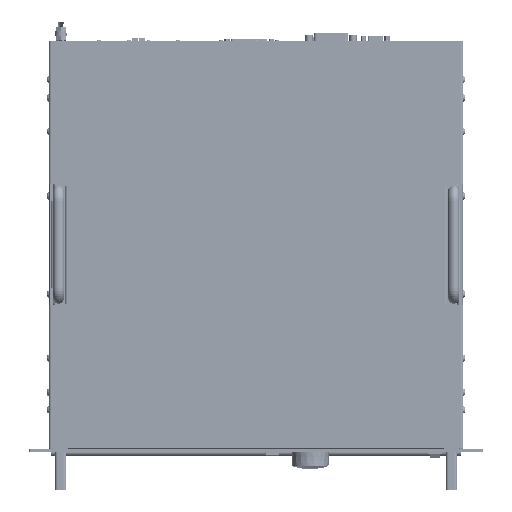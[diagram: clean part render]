
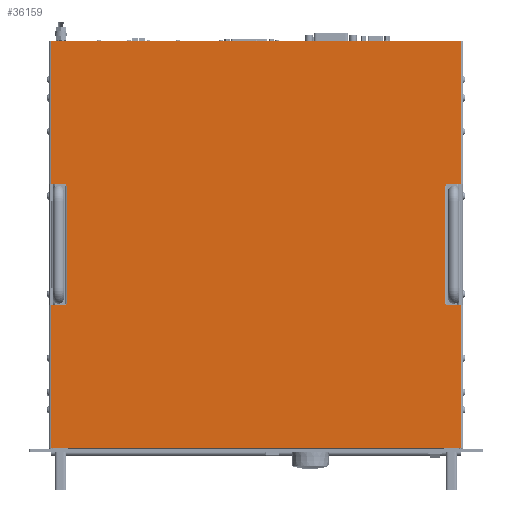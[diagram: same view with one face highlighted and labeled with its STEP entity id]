
A CAD part, top view. The second image highlights one B-rep face of the part: STEP entity #36159.
In plain terms, the highlighted planar face has unit normal (0, 0, 1).
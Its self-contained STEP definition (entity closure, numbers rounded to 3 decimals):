
#36159=ADVANCED_FACE('',(#79240),#79241,.F.);
#79240=FACE_OUTER_BOUND('',#158918,.T.);
#79241=PLANE('',#158919);
#158918=EDGE_LOOP('',(#263741,#263742,#263743,#263744,#263745,#263746,#263747,#263748,#263749,#263750,#263751,#263752,#263753,#263754,#263755,#263756,#263757,#263758,#263759,#263760));
#158919=AXIS2_PLACEMENT_3D('',#263761,#263762,#263763);
#263741=ORIENTED_EDGE('',*,*,#353192,.T.);
#263742=ORIENTED_EDGE('',*,*,#353212,.F.);
#263743=ORIENTED_EDGE('',*,*,#353213,.F.);
#263744=ORIENTED_EDGE('',*,*,#352856,.F.);
#263745=ORIENTED_EDGE('',*,*,#353178,.F.);
#263746=ORIENTED_EDGE('',*,*,#352841,.F.);
#263747=ORIENTED_EDGE('',*,*,#353167,.F.);
#263748=ORIENTED_EDGE('',*,*,#353214,.F.);
#263749=ORIENTED_EDGE('',*,*,#353210,.T.);
#263750=ORIENTED_EDGE('',*,*,#353205,.F.);
#263751=ORIENTED_EDGE('',*,*,#353202,.T.);
#263752=ORIENTED_EDGE('',*,*,#353215,.F.);
#263753=ORIENTED_EDGE('',*,*,#353143,.F.);
#263754=ORIENTED_EDGE('',*,*,#352831,.F.);
#263755=ORIENTED_EDGE('',*,*,#353132,.F.);
#263756=ORIENTED_EDGE('',*,*,#352851,.F.);
#263757=ORIENTED_EDGE('',*,*,#353216,.F.);
#263758=ORIENTED_EDGE('',*,*,#353217,.F.);
#263759=ORIENTED_EDGE('',*,*,#353189,.T.);
#263760=ORIENTED_EDGE('',*,*,#353197,.T.);
#263761=CARTESIAN_POINT('',(243.171,260.375,398.172));
#263762=DIRECTION('',(0.,0.,-1.0));
#263763=DIRECTION('',(1.0,0.,0.));
#352831=EDGE_CURVE('',#418609,#418611,#418612,.T.);
#352841=EDGE_CURVE('',#418627,#418629,#418630,.T.);
#352851=EDGE_CURVE('',#418645,#418647,#418648,.T.);
#352856=EDGE_CURVE('',#418654,#418656,#418657,.T.);
#353132=EDGE_CURVE('',#418647,#418609,#419087,.T.);
#353143=EDGE_CURVE('',#418611,#419102,#419103,.T.);
#353167=EDGE_CURVE('',#419135,#418627,#419137,.T.);
#353178=EDGE_CURVE('',#418629,#418654,#419152,.T.);
#353189=EDGE_CURVE('',#419163,#419166,#419168,.T.);
#353192=EDGE_CURVE('',#419173,#419170,#419174,.T.);
#353197=EDGE_CURVE('',#419166,#419173,#419179,.T.);
#353202=EDGE_CURVE('',#419185,#419183,#419186,.T.);
#353205=EDGE_CURVE('',#419185,#419189,#419190,.T.);
#353210=EDGE_CURVE('',#419195,#419189,#419197,.T.);
#353212=EDGE_CURVE('',#419199,#419170,#419200,.T.);
#353213=EDGE_CURVE('',#418656,#419199,#419201,.T.);
#353214=EDGE_CURVE('',#419195,#419135,#419202,.T.);
#353215=EDGE_CURVE('',#419102,#419183,#419203,.T.);
#353216=EDGE_CURVE('',#419204,#418645,#419205,.T.);
#353217=EDGE_CURVE('',#419163,#419204,#419206,.T.);
#418609=VERTEX_POINT('',#515691);
#418611=VERTEX_POINT('',#515693);
#418612=LINE('',#515694,#515695);
#418627=VERTEX_POINT('',#515713);
#418629=VERTEX_POINT('',#515715);
#418630=LINE('',#515716,#515717);
#418645=VERTEX_POINT('',#515735);
#418647=VERTEX_POINT('',#515737);
#418648=LINE('',#515738,#515739);
#418654=VERTEX_POINT('',#515746);
#418656=VERTEX_POINT('',#515748);
#418657=LINE('',#515749,#515750);
#419087=LINE('',#516301,#516302);
#419102=VERTEX_POINT('',#516322);
#419103=LINE('',#516323,#516324);
#419135=VERTEX_POINT('',#516370);
#419137=LINE('',#516373,#516374);
#419152=LINE('',#516394,#516395);
#419163=VERTEX_POINT('',#516410);
#419166=VERTEX_POINT('',#516414);
#419168=LINE('',#516416,#516417);
#419170=VERTEX_POINT('',#516419);
#419173=VERTEX_POINT('',#516423);
#419174=LINE('',#516424,#516425);
#419179=LINE('',#516430,#516431);
#419183=VERTEX_POINT('',#516436);
#419185=VERTEX_POINT('',#516439);
#419186=LINE('',#516440,#516441);
#419189=VERTEX_POINT('',#516444);
#419190=LINE('',#516445,#516446);
#419195=VERTEX_POINT('',#516451);
#419197=LINE('',#516454,#516455);
#419199=VERTEX_POINT('',#516457);
#419200=LINE('',#516458,#516459);
#419201=LINE('',#516460,#516461);
#419202=LINE('',#516462,#516463);
#419203=LINE('',#516464,#516465);
#419204=VERTEX_POINT('',#516466);
#419205=LINE('',#516467,#516468);
#419206=LINE('',#516469,#516470);
#515691=CARTESIAN_POINT('',(25.493,43.75,398.172));
#515693=CARTESIAN_POINT('',(25.493,195.75,398.172));
#515694=CARTESIAN_POINT('',(25.493,190.063,398.172));
#515695=VECTOR('',#592863,1.0);
#515713=CARTESIAN_POINT('',(25.493,325.,398.172));
#515715=CARTESIAN_POINT('',(25.493,477.,398.172));
#515716=CARTESIAN_POINT('',(25.493,330.688,398.172));
#515717=VECTOR('',#592879,1.0);
#515735=CARTESIAN_POINT('',(460.848,195.75,398.172));
#515737=CARTESIAN_POINT('',(460.848,43.75,398.172));
#515738=CARTESIAN_POINT('',(460.848,190.063,398.172));
#515739=VECTOR('',#592895,1.0);
#515746=CARTESIAN_POINT('',(460.848,477.,398.172));
#515748=CARTESIAN_POINT('',(460.848,325.,398.172));
#515749=CARTESIAN_POINT('',(460.848,330.688,398.172));
#515750=VECTOR('',#592903,1.0);
#516301=CARTESIAN_POINT('',(463.598,43.75,398.172));
#516302=VECTOR('',#593289,1.0);
#516322=CARTESIAN_POINT('',(40.743,195.75,398.172));
#516323=CARTESIAN_POINT('',(22.743,195.75,398.172));
#516324=VECTOR('',#593307,1.0);
#516370=CARTESIAN_POINT('',(40.743,325.,398.172));
#516373=CARTESIAN_POINT('',(40.743,325.,398.172));
#516374=VECTOR('',#593335,1.0);
#516394=CARTESIAN_POINT('',(22.743,477.,398.172));
#516395=VECTOR('',#593353,1.0);
#516410=CARTESIAN_POINT('',(445.598,197.75,398.172));
#516414=CARTESIAN_POINT('',(443.848,197.75,398.172));
#516416=CARTESIAN_POINT('',(344.464,197.75,398.172));
#516417=VECTOR('',#593365,1.0);
#516419=CARTESIAN_POINT('',(445.598,323.,398.172));
#516423=CARTESIAN_POINT('',(443.848,323.,398.172));
#516424=CARTESIAN_POINT('',(344.464,323.,398.172));
#516425=VECTOR('',#593367,1.0);
#516430=CARTESIAN_POINT('',(443.848,260.375,398.172));
#516431=VECTOR('',#593377,1.0);
#516436=CARTESIAN_POINT('',(40.743,197.75,398.172));
#516439=CARTESIAN_POINT('',(42.493,197.75,398.172));
#516440=CARTESIAN_POINT('',(141.877,197.75,398.172));
#516441=VECTOR('',#593380,1.0);
#516444=CARTESIAN_POINT('',(42.493,323.,398.172));
#516445=CARTESIAN_POINT('',(42.493,260.375,398.172));
#516446=VECTOR('',#593384,1.0);
#516451=CARTESIAN_POINT('',(40.743,323.,398.172));
#516454=CARTESIAN_POINT('',(141.877,323.,398.172));
#516455=VECTOR('',#593392,1.0);
#516457=CARTESIAN_POINT('',(445.598,325.,398.172));
#516458=CARTESIAN_POINT('',(445.598,325.,398.172));
#516459=VECTOR('',#593393,1.0);
#516460=CARTESIAN_POINT('',(463.598,325.,398.172));
#516461=VECTOR('',#593394,1.0);
#516462=CARTESIAN_POINT('',(40.743,323.,398.172));
#516463=VECTOR('',#593395,1.0);
#516464=CARTESIAN_POINT('',(40.743,195.75,398.172));
#516465=VECTOR('',#593396,1.0);
#516466=CARTESIAN_POINT('',(445.598,195.75,398.172));
#516467=CARTESIAN_POINT('',(445.598,195.75,398.172));
#516468=VECTOR('',#593397,1.0);
#516469=CARTESIAN_POINT('',(445.598,197.75,398.172));
#516470=VECTOR('',#593398,1.0);
#592863=DIRECTION('',(0.0,1.0,0.0));
#592879=DIRECTION('',(0.0,1.0,0.0));
#592895=DIRECTION('',(0.0,-1.0,0.0));
#592903=DIRECTION('',(0.0,-1.0,0.0));
#593289=DIRECTION('',(-1.0,0.0,0.0));
#593307=DIRECTION('',(1.0,0.0,0.0));
#593335=DIRECTION('',(-1.0,0.0,0.0));
#593353=DIRECTION('',(1.0,0.0,0.0));
#593365=DIRECTION('',(-1.0,0.0,0.0));
#593367=DIRECTION('',(1.0,0.0,0.0));
#593377=DIRECTION('',(0.0,1.0,0.0));
#593380=DIRECTION('',(-1.0,0.0,0.0));
#593384=DIRECTION('',(0.0,1.0,0.0));
#593392=DIRECTION('',(1.0,0.0,0.0));
#593393=DIRECTION('',(0.0,-1.0,0.0));
#593394=DIRECTION('',(-1.0,0.0,0.0));
#593395=DIRECTION('',(0.0,1.0,0.0));
#593396=DIRECTION('',(0.0,1.0,0.0));
#593397=DIRECTION('',(1.0,0.0,0.0));
#593398=DIRECTION('',(0.0,-1.0,0.0));
